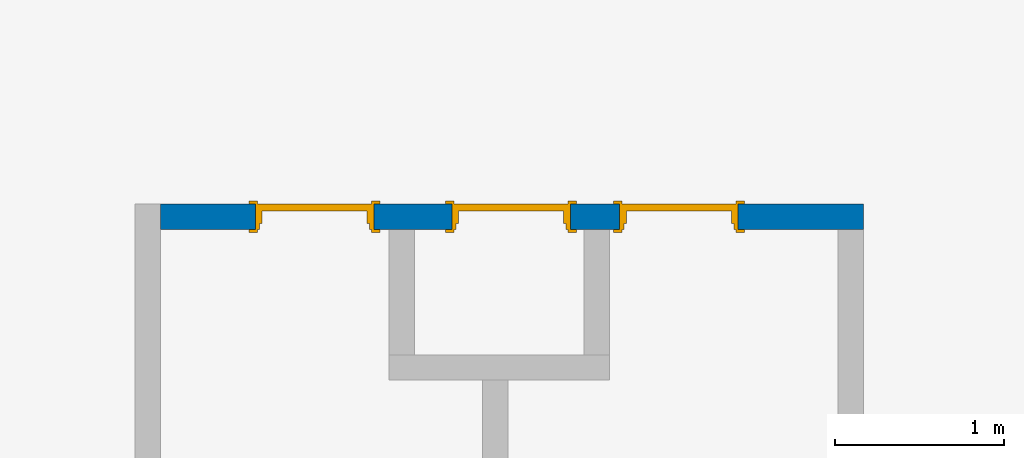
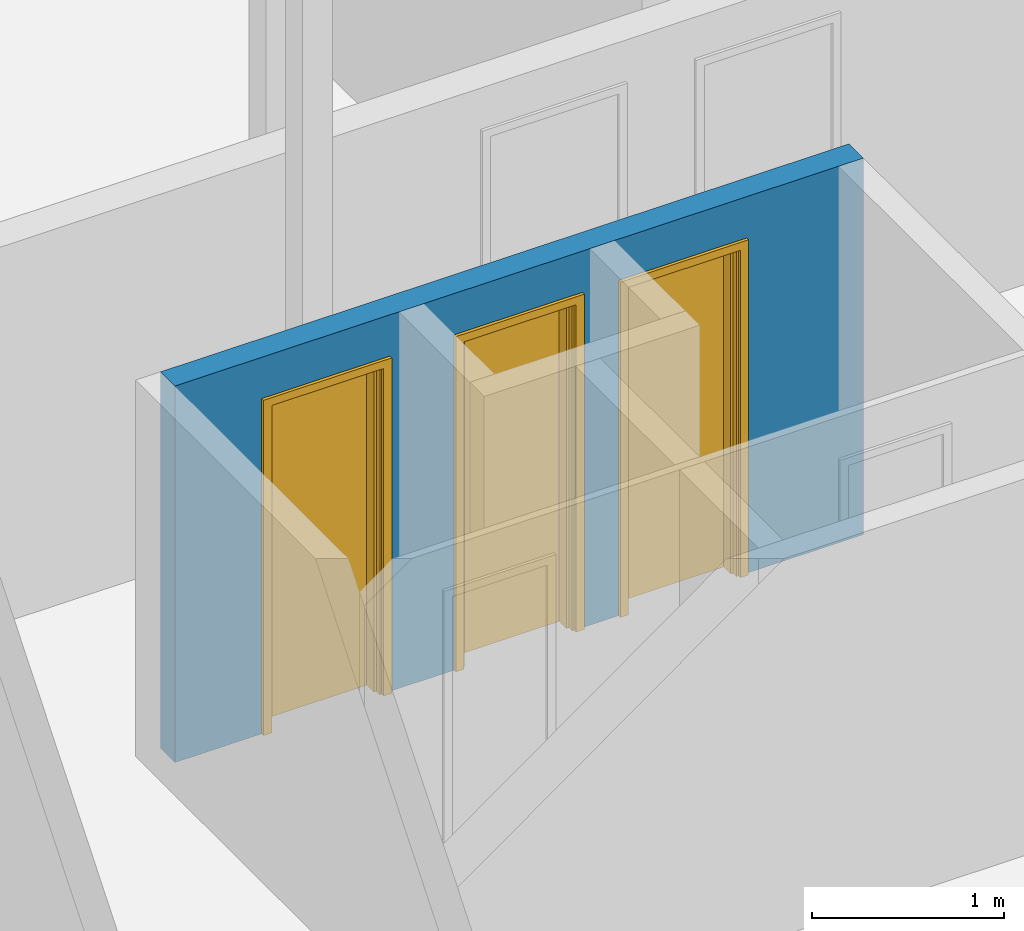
# One storey, part 19 of 48: 3 doors, 1 wall, 3 openings.
"""IFC2X3 building model written with IfcOpenShell, lengths in millimetres."""

from ifc_helpers import new_model, entity, si_unit, converted_unit, derived_unit, money_unit, direction, frame, origin_with_axes, place, context, subcontext, project, spatial, faceted_brep, source, transform, mapped, material, type_object, element, fill, save


model = new_model("IFC2X3")

# Units and contexts
model_context = context("Model", 3, precision=0.01, world=origin_with_axes(), true_north=direction((0.0, 1.0)))
body_context = subcontext(model_context, "Body", "Model", "MODEL_VIEW")
ifc_project = project(units=[si_unit("LENGTHUNIT", "METRE", prefix="MILLI"), si_unit("AREAUNIT", "SQUARE_METRE"), si_unit("VOLUMEUNIT", "CUBIC_METRE"), converted_unit("PLANEANGLEUNIT", "DEGREE", entity("IfcPlaneAngleMeasure", 0.0174532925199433), si_unit("PLANEANGLEUNIT", "RADIAN"), dimensions=[0, 0, 0, 0, 0, 0, 0]), money_unit("USD"), converted_unit("TIMEUNIT", "Year", entity("IfcTimeMeasure", 31557600.0), si_unit("TIMEUNIT", "SECOND"), dimensions=[0, 0, 1, 0, 0, 0, 0]), si_unit("MASSUNIT", "GRAM", prefix="KILO"), si_unit("THERMODYNAMICTEMPERATUREUNIT", "DEGREE_CELSIUS"), si_unit("LUMINOUSINTENSITYUNIT", "LUMEN"), si_unit("ENERGYUNIT", "JOULE", prefix="MEGA"), derived_unit("THERMALCONDUCTANCEUNIT", [(si_unit("POWERUNIT", "WATT"), 1), (si_unit("LENGTHUNIT", "METRE"), -1), (si_unit("THERMODYNAMICTEMPERATUREUNIT", "KELVIN"), -1)]), derived_unit("SPECIFICHEATCAPACITYUNIT", [(si_unit("ENERGYUNIT", "JOULE"), 1), (si_unit("MASSUNIT", "GRAM", prefix="KILO"), -1), (si_unit("THERMODYNAMICTEMPERATUREUNIT", "KELVIN"), -1)]), derived_unit("MASSDENSITYUNIT", [(si_unit("MASSUNIT", "GRAM", prefix="KILO"), 1), (si_unit("VOLUMEUNIT", "CUBIC_METRE"), -1)])], contexts=[model_context])

# Site, building, storey
site_placement = place(None, origin_with_axes())
site = spatial("IfcSite", under=ifc_project, at=site_placement, Name="Site", CompositionType="ELEMENT")
building_placement = place(site_placement, origin_with_axes())
building = spatial("IfcBuilding", under=site, at=building_placement, Name="Building", CompositionType="ELEMENT")
storey_placement = place(building_placement, frame((0.0, 0.0, 3300.0), z_axis=(0.0, 0.0, 1.0), x_axis=(1.0, 0.0, 0.0)))
storey = spatial("IfcBuildingStorey", under=building, at=storey_placement, Name="1 ETG", CompositionType="ELEMENT", Elevation=3300.0)

# Wall, openings, doors
ifc_material = material(Name="GENERIC - INTERNAL FILLER")
wall_type = type_object("IfcWallType", Name="GENERIC - INTERNAL FILLER 150", PredefinedType="NOTDEFINED")
wall_placement = place(storey_placement, frame((34199.99999999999, 12999.87497638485, 0.0), z_axis=(0.0, 0.0, 1.0), x_axis=(1.0, 0.0, 0.0)))
wall = element("IfcWall", 1, at=wall_placement, inside=storey, type_object=wall_type, material=ifc_material, Name="SW - 001", context=body_context, shape_type="Brep", body=[
    faceted_brep([(2860.310245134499, 0.0, 2100.0), (2860.310245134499, 0.0, 0.0), (2569.286744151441, 0.0, 0.0), (2569.286744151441, 0.0, 2100.0), (1869.286744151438, 0.0, 2100.0), (1869.286744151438, 0.0, 0.0), (1409.578391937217, 0.0, 0.0), (1409.578391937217, 0.0, 2100.0), (709.5783919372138, 0.0, 2100.0), (709.5783919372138, 0.0, 0.0), (149.9999999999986, 0.0, 0.0), (149.9999999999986, 0.0, 2400.0), (4299.999999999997, 0.0, 2400.0), (4299.999999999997, 0.0, 0.0), (3560.310245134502, 0.0, 0.0), (3560.310245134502, 0.0, 2100.0), (2860.310245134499, -150.0000000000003, 2100.0), (2860.310245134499, -150.0000000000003, 0.0), (2569.286744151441, -150.0000000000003, 0.0), (2569.286744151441, -150.0000000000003, 2100.0), (1869.286744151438, -150.0000000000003, 2100.0), (1869.286744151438, -150.0000000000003, 0.0), (1409.578391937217, -150.0000000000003, 0.0), (1409.578391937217, -150.0000000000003, 2100.0), (709.5783919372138, -150.0000000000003, 2100.0), (709.5783919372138, -150.0000000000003, 0.0), (149.9999999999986, -150.0000000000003, 0.0), (149.9999999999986, -150.0000000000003, 2400.0), (4299.999999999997, -150.0000000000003, 2400.0), (4299.999999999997, -150.0000000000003, 0.0), (3560.310245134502, -150.0000000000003, 0.0), (3560.310245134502, -150.0000000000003, 2100.0)], [[[0, 1, 2, 3, 4, 5, 6, 7, 8, 9, 10, 11, 12, 13, 14, 15]], [[1, 0, 16, 17]], [[1, 17, 18, 2]], [[2, 18, 19, 3]], [[3, 19, 20, 4]], [[4, 20, 21, 5]], [[21, 22, 6, 5]], [[22, 23, 7, 6]], [[23, 24, 8, 7]], [[24, 25, 9, 8]], [[26, 10, 9, 25]], [[10, 26, 27, 11]], [[27, 28, 12, 11]], [[13, 12, 28, 29]], [[30, 14, 13, 29]], [[15, 14, 30, 31]], [[0, 15, 31, 16]], [[31, 30, 29, 28, 27, 26, 25, 24, 23, 22, 21, 20, 19, 18, 17, 16]]]),
])
opening_1_placement = place(wall_placement, frame((1059.578391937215, 0.0, 0.0), z_axis=(0.0, 0.0, 1.0), x_axis=(1.0, 0.0, 0.0)))
opening_1 = element("IfcOpeningElement", 2, at=opening_1_placement, cuts=wall, Name="DOO - 002", context=body_context, shape_type="Brep", body=[
    faceted_brep([(-350.0000000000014, 0.9999999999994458, 2100.0), (350.0000000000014, 0.9999999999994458, 2100.0), (350.0000000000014, 0.9999999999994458, 0.0), (-350.0000000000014, 0.9999999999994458, 0.0), (-387.0000000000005, 0.9999999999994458, 0.0), (-387.0000000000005, 0.9999999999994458, 2137.0), (387.0000000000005, 0.9999999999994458, 2137.0), (387.0000000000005, 0.9999999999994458, 0.0), (-350.0000000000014, 0.0, 0.0), (350.0000000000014, 0.0, 0.0), (350.0000000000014, -150.0000000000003, 0.0), (350.0000000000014, -150.9999999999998, 0.0), (-350.0000000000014, -150.9999999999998, 0.0), (-350.0000000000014, -150.0000000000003, 0.0), (-387.0000000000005, 0.0, 0.0), (-387.0000000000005, 0.0, 2137.0), (387.0000000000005, 0.0, 2137.0), (387.0000000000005, 0.0, 0.0), (350.0000000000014, 0.0, 2100.0), (350.0000000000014, -150.0000000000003, 2100.0), (387.0000000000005, -150.0000000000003, 0.0), (387.0000000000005, -150.9999999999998, 0.0), (387.0000000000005, -150.9999999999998, 2137.0), (-387.0000000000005, -150.9999999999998, 2137.0), (-387.0000000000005, -150.9999999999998, 0.0), (-387.0000000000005, -150.0000000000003, 0.0), (-350.0000000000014, 0.0, 2100.0), (-350.0000000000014, -150.0000000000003, 2100.0), (-387.0000000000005, -150.0000000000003, 2137.0), (387.0000000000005, -150.0000000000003, 2137.0)], [[[0, 1, 2, 3]], [[2, 1, 0, 3, 4, 5, 6, 7]], [[8, 3, 2, 9, 10, 11, 12, 13]], [[3, 8, 14, 4]], [[14, 15, 5, 4]], [[15, 16, 6, 5]], [[16, 17, 7, 6]], [[9, 2, 7, 17]], [[9, 18, 19, 10]], [[11, 10, 20, 21]], [[12, 11, 21, 22, 23, 24]], [[13, 12, 24, 25]], [[26, 8, 13, 27]], [[26, 18, 9, 17, 16, 15, 14, 8]], [[18, 26, 27, 19]], [[10, 19, 27, 13, 25, 28, 29, 20]], [[20, 29, 22, 21]], [[29, 28, 23, 22]], [[28, 25, 24, 23]]]),
])
opening_2_placement = place(wall_placement, frame((2219.28674415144, 0.0, 0.0), z_axis=(0.0, 0.0, 1.0), x_axis=(1.0, 0.0, 0.0)))
opening_2 = element("IfcOpeningElement", 3, at=opening_2_placement, cuts=wall, Name="DOO - 002", context=body_context, shape_type="Brep", body=[
    faceted_brep([(-350.0000000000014, 0.9999999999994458, 2100.0), (350.0000000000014, 0.9999999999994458, 2100.0), (350.0000000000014, 0.9999999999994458, 0.0), (-350.0000000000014, 0.9999999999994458, 0.0), (-387.0000000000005, 0.9999999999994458, 0.0), (-387.0000000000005, 0.9999999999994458, 2137.0), (387.0000000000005, 0.9999999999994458, 2137.0), (387.0000000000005, 0.9999999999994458, 0.0), (-350.0000000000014, 0.0, 0.0), (350.0000000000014, 0.0, 0.0), (350.0000000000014, -150.0000000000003, 0.0), (350.0000000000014, -150.9999999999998, 0.0), (-350.0000000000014, -150.9999999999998, 0.0), (-350.0000000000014, -150.0000000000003, 0.0), (-387.0000000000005, 0.0, 0.0), (-387.0000000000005, 0.0, 2137.0), (387.0000000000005, 0.0, 2137.0), (387.0000000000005, 0.0, 0.0), (350.0000000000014, 0.0, 2100.0), (350.0000000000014, -150.0000000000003, 2100.0), (387.0000000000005, -150.0000000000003, 0.0), (387.0000000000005, -150.9999999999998, 0.0), (387.0000000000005, -150.9999999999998, 2137.0), (-387.0000000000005, -150.9999999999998, 2137.0), (-387.0000000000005, -150.9999999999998, 0.0), (-387.0000000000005, -150.0000000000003, 0.0), (-350.0000000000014, 0.0, 2100.0), (-350.0000000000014, -150.0000000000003, 2100.0), (-387.0000000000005, -150.0000000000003, 2137.0), (387.0000000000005, -150.0000000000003, 2137.0)], [[[0, 1, 2, 3]], [[2, 1, 0, 3, 4, 5, 6, 7]], [[8, 3, 2, 9, 10, 11, 12, 13]], [[3, 8, 14, 4]], [[14, 15, 5, 4]], [[15, 16, 6, 5]], [[16, 17, 7, 6]], [[9, 2, 7, 17]], [[9, 18, 19, 10]], [[11, 10, 20, 21]], [[12, 11, 21, 22, 23, 24]], [[13, 12, 24, 25]], [[26, 8, 13, 27]], [[26, 18, 9, 17, 16, 15, 14, 8]], [[18, 26, 27, 19]], [[10, 19, 27, 13, 25, 28, 29, 20]], [[20, 29, 22, 21]], [[29, 28, 23, 22]], [[28, 25, 24, 23]]]),
])
opening_3_placement = place(wall_placement, frame((3210.310245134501, 0.0, 0.0), z_axis=(0.0, 0.0, 1.0), x_axis=(1.0, 0.0, 0.0)))
opening_3 = element("IfcOpeningElement", 4, at=opening_3_placement, cuts=wall, Name="DOO - 002", context=body_context, shape_type="Brep", body=[
    faceted_brep([(-350.0000000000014, 0.9999999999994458, 2100.0), (350.0000000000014, 0.9999999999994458, 2100.0), (350.0000000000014, 0.9999999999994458, 0.0), (-350.0000000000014, 0.9999999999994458, 0.0), (-387.0000000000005, 0.9999999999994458, 0.0), (-387.0000000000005, 0.9999999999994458, 2137.0), (387.0000000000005, 0.9999999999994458, 2137.0), (387.0000000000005, 0.9999999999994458, 0.0), (-350.0000000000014, 0.0, 0.0), (350.0000000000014, 0.0, 0.0), (350.0000000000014, -150.0000000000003, 0.0), (350.0000000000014, -150.9999999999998, 0.0), (-350.0000000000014, -150.9999999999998, 0.0), (-350.0000000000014, -150.0000000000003, 0.0), (-387.0000000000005, 0.0, 0.0), (-387.0000000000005, 0.0, 2137.0), (387.0000000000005, 0.0, 2137.0), (387.0000000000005, 0.0, 0.0), (350.0000000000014, 0.0, 2100.0), (350.0000000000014, -150.0000000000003, 2100.0), (387.0000000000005, -150.0000000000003, 0.0), (387.0000000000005, -150.9999999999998, 0.0), (387.0000000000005, -150.9999999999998, 2137.0), (-387.0000000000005, -150.9999999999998, 2137.0), (-387.0000000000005, -150.9999999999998, 0.0), (-387.0000000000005, -150.0000000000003, 0.0), (-350.0000000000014, 0.0, 2100.0), (-350.0000000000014, -150.0000000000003, 2100.0), (-387.0000000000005, -150.0000000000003, 2137.0), (387.0000000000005, -150.0000000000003, 2137.0)], [[[0, 1, 2, 3]], [[2, 1, 0, 3, 4, 5, 6, 7]], [[8, 3, 2, 9, 10, 11, 12, 13]], [[3, 8, 14, 4]], [[14, 15, 5, 4]], [[15, 16, 6, 5]], [[16, 17, 7, 6]], [[9, 2, 7, 17]], [[9, 18, 19, 10]], [[11, 10, 20, 21]], [[12, 11, 21, 22, 23, 24]], [[13, 12, 24, 25]], [[26, 8, 13, 27]], [[26, 18, 9, 17, 16, 15, 14, 8]], [[18, 26, 27, 19]], [[10, 19, 27, 13, 25, 28, 29, 20]], [[20, 29, 22, 21]], [[29, 28, 23, 22]], [[28, 25, 24, 23]]]),
])
door_style_1 = type_object("IfcDoorStyle", Name="Dør", ConstructionType="NOTDEFINED", OperationType="SINGLE_SWING_LEFT", ParameterTakesPrecedence=False, Sizeable=False)
shared_shape_1 = source(origin_with_axes(), body_context, "Body", "Brep", [
    faceted_brep([(350.0, -115.0, 0.0), (350.0, -150.0, 0.0), (324.9999999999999, -150.0, 0.0), (324.9999999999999, -115.0, 0.0), (350.0, -115.0000000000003, 2100.0), (350.0, -150.0000000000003, 2100.0), (324.9999999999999, -150.0000000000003, 2075.0), (324.9999999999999, -115.0000000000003, 2075.0)], [[[0, 1, 2, 3]], [[4, 5, 1, 0]], [[1, 5, 6, 2]], [[3, 2, 6, 7]], [[0, 3, 7, 4]], [[7, 6, 5, 4]]]),
    faceted_brep([(-350.0, -115.0000000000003, 2100.0), (-350.0, -150.0000000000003, 2100.0), (-324.9999999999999, -150.0000000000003, 2075.0), (-324.9999999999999, -115.0000000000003, 2075.0), (-350.0, -115.0, 0.0), (-350.0, -150.0, 0.0), (-324.9999999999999, -150.0, 0.0), (-324.9999999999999, -115.0, 0.0)], [[[0, 1, 2, 3]], [[4, 5, 1, 0]], [[1, 5, 6, 2]], [[3, 2, 6, 7]], [[0, 3, 7, 4]], [[7, 6, 5, 4]]]),
    faceted_brep([(324.9999999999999, -115.0000000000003, 2075.0), (324.9999999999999, -150.0000000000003, 2075.0), (-324.9999999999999, -150.0000000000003, 2075.0), (-324.9999999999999, -115.0000000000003, 2075.0), (350.0, -115.0000000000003, 2100.0), (350.0, -150.0000000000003, 2100.0), (-350.0, -150.0000000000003, 2100.0), (-350.0, -115.0000000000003, 2100.0)], [[[0, 1, 2, 3]], [[4, 5, 1, 0]], [[1, 5, 6, 2]], [[3, 2, 6, 7]], [[0, 3, 7, 4]], [[7, 6, 5, 4]]]),
    faceted_brep([(386.9999999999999, -169.0, 0.0), (336.9999999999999, -169.0, 0.0), (336.9999999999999, -150.0, 0.0), (386.9999999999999, -150.0, 0.0), (386.9999999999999, -169.0000000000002, 2137.0), (336.9999999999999, -169.0000000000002, 2087.0), (336.9999999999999, -150.0000000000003, 2087.0), (386.9999999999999, -150.0000000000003, 2137.0)], [[[0, 1, 2, 3]], [[0, 4, 5, 1]], [[1, 5, 6, 2]], [[3, 2, 6, 7]], [[4, 0, 3, 7]], [[5, 4, 7, 6]]]),
    faceted_brep([(-386.9999999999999, -169.0000000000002, 2137.0), (-336.9999999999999, -169.0000000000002, 2087.0), (-336.9999999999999, -150.0000000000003, 2087.0), (-386.9999999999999, -150.0000000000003, 2137.0), (-386.9999999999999, -169.0, 0.0), (-336.9999999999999, -169.0, 0.0), (-336.9999999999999, -150.0, 0.0), (-386.9999999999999, -150.0, 0.0)], [[[0, 1, 2, 3]], [[0, 4, 5, 1]], [[1, 5, 6, 2]], [[3, 2, 6, 7]], [[4, 0, 3, 7]], [[5, 4, 7, 6]]]),
    faceted_brep([(386.9999999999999, -169.0000000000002, 2137.0), (336.9999999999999, -169.0000000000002, 2087.0), (336.9999999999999, -150.0000000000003, 2087.0), (386.9999999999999, -150.0000000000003, 2137.0), (-386.9999999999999, -169.0000000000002, 2137.0), (-336.9999999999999, -169.0000000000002, 2087.0), (-336.9999999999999, -150.0000000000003, 2087.0), (-386.9999999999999, -150.0000000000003, 2137.0)], [[[0, 1, 2, 3]], [[0, 4, 5, 1]], [[1, 5, 6, 2]], [[3, 2, 6, 7]], [[4, 0, 3, 7]], [[5, 4, 7, 6]]]),
    faceted_brep([(386.9999999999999, 19.0, 0.0), (386.9999999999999, 0.0, 0.0), (336.9999999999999, 0.0, 0.0), (336.9999999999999, 19.0, 0.0), (386.9999999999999, 18.99999999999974, 2137.0), (386.9999999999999, 0.0, 2137.0), (336.9999999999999, 0.0, 2087.0), (336.9999999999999, 18.99999999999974, 2087.0)], [[[0, 1, 2, 3]], [[4, 5, 1, 0]], [[1, 5, 6, 2]], [[3, 2, 6, 7]], [[0, 3, 7, 4]], [[7, 6, 5, 4]]]),
    faceted_brep([(-386.9999999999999, 18.99999999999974, 2137.0), (-386.9999999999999, 0.0, 2137.0), (-336.9999999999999, 0.0, 2087.0), (-336.9999999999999, 18.99999999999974, 2087.0), (-386.9999999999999, 19.0, 0.0), (-386.9999999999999, 0.0, 0.0), (-336.9999999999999, 0.0, 0.0), (-336.9999999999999, 19.0, 0.0)], [[[0, 1, 2, 3]], [[4, 5, 1, 0]], [[1, 5, 6, 2]], [[3, 2, 6, 7]], [[0, 3, 7, 4]], [[7, 6, 5, 4]]]),
    faceted_brep([(387.0, 18.99999999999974, 2137.0), (387.0, 0.0, 2137.0), (336.9999999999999, 0.0, 2087.0), (336.9999999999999, 18.99999999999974, 2087.0), (-387.0, 18.99999999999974, 2137.0), (-387.0, 0.0, 2137.0), (-336.9999999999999, 0.0, 2087.0), (-336.9999999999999, 18.99999999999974, 2087.0)], [[[0, 1, 2, 3]], [[4, 5, 1, 0]], [[1, 5, 6, 2]], [[3, 2, 6, 7]], [[0, 3, 7, 4]], [[7, 6, 5, 4]]]),
    faceted_brep([(350.0, 0.0, 0.0), (350.0, -115.0, 0.0), (310.0, -115.0, 0.0), (310.0, 0.0, 0.0), (350.0, 0.0, 2060.0), (350.0, -115.0, 2060.0), (310.0, -115.0, 2060.0), (310.0, 0.0, 2060.0)], [[[0, 1, 2, 3]], [[4, 5, 1, 0]], [[1, 5, 6, 2]], [[3, 2, 6, 7]], [[0, 3, 7, 4]], [[7, 6, 5, 4]]]),
    faceted_brep([(-350.0, 0.0, 0.0), (-350.0, -115.0, 0.0), (-350.0, -115.0, 2060.0), (-350.0, 0.0, 2060.0), (-310.0, 0.0, 0.0), (-310.0, -115.0, 0.0), (-310.0, -115.0, 2060.0), (-310.0, 0.0, 2060.0)], [[[0, 1, 2, 3]], [[4, 5, 1, 0]], [[1, 5, 6, 2]], [[3, 2, 6, 7]], [[0, 3, 7, 4]], [[7, 6, 5, 4]]]),
    faceted_brep([(350.0, 0.0, 2100.0), (350.0, -115.0, 2100.0), (350.0, -115.0, 2060.0), (350.0, 0.0, 2060.0), (-350.0, 0.0, 2100.0), (-350.0, -115.0, 2100.0), (-350.0, -115.0, 2060.0), (-310.0, -115.0, 2060.0), (310.0, -115.0, 2060.0), (310.0, 0.0, 2060.0), (-310.0, 0.0, 2060.0), (-350.0, 0.0, 2060.0)], [[[0, 1, 2, 3]], [[4, 5, 1, 0]], [[1, 5, 6, 7, 8, 2]], [[3, 2, 8, 9]], [[0, 3, 9, 10, 11, 4]], [[11, 6, 5, 4]], [[10, 7, 6, 11]], [[9, 8, 7, 10]]]),
    faceted_brep([(-309.9999999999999, 0.0, 0.0), (310.0, 0.0, 0.0), (310.0, -40.0, 0.0), (-309.9999999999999, -40.0, 0.0), (-309.9999999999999, 0.0, 2060.0), (310.0, 0.0, 2060.0), (310.0, -40.00000000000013, 2060.0), (-309.9999999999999, -40.00000000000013, 2060.0)], [[[0, 1, 2, 3]], [[0, 4, 5, 1]], [[1, 5, 6, 2]], [[3, 2, 6, 7]], [[4, 0, 3, 7]], [[5, 4, 7, 6]]]),
])
door_1_placement = place(opening_1_placement, frame((-350.0000000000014, 0.0, 0.0), z_axis=(0.0, 0.0, 1.0), x_axis=(1.0, 0.0, 0.0)))
door_1 = element("IfcDoor", 5, at=door_1_placement, inside=storey, type_object=door_style_1, Name="DOO - 002", ObjectType="DOOR", OverallHeight=2100.0, OverallWidth=700.0, context=body_context, shape_type="MappedRepresentation", body=[
    mapped(shared_shape_1, transform((350.0000000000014, 0.0, 0.0))),
])
fill(opening_1, door_1)
door_style_2 = type_object("IfcDoorStyle", Name="Dør", ConstructionType="NOTDEFINED", OperationType="SINGLE_SWING_RIGHT", ParameterTakesPrecedence=False, Sizeable=False)
shared_shape_2 = source(origin_with_axes(), body_context, "Body", "Brep", [
    faceted_brep([(-350.0, -115.0, 0.0), (-324.9999999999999, -115.0, 0.0), (-324.9999999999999, -150.0, 0.0), (-350.0, -150.0, 0.0), (-350.0, -115.0000000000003, 2100.0), (-324.9999999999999, -115.0000000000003, 2075.0), (-324.9999999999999, -150.0000000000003, 2075.0), (-350.0, -150.0000000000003, 2100.0)], [[[0, 1, 2, 3]], [[0, 4, 5, 1]], [[1, 5, 6, 2]], [[3, 2, 6, 7]], [[4, 0, 3, 7]], [[5, 4, 7, 6]]]),
    faceted_brep([(350.0, -115.0000000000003, 2100.0), (324.9999999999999, -115.0000000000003, 2075.0), (324.9999999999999, -150.0000000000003, 2075.0), (350.0, -150.0000000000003, 2100.0), (350.0, -115.0, 0.0), (324.9999999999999, -115.0, 0.0), (324.9999999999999, -150.0, 0.0), (350.0, -150.0, 0.0)], [[[0, 1, 2, 3]], [[0, 4, 5, 1]], [[1, 5, 6, 2]], [[3, 2, 6, 7]], [[4, 0, 3, 7]], [[5, 4, 7, 6]]]),
    faceted_brep([(-324.9999999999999, -115.0000000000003, 2075.0), (324.9999999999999, -115.0000000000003, 2075.0), (324.9999999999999, -150.0000000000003, 2075.0), (-324.9999999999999, -150.0000000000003, 2075.0), (-350.0, -115.0000000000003, 2100.0), (350.0, -115.0000000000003, 2100.0), (350.0, -150.0000000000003, 2100.0), (-350.0, -150.0000000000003, 2100.0)], [[[0, 1, 2, 3]], [[0, 4, 5, 1]], [[1, 5, 6, 2]], [[3, 2, 6, 7]], [[4, 0, 3, 7]], [[5, 4, 7, 6]]]),
    faceted_brep([(-386.9999999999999, -169.0, 0.0), (-386.9999999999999, -150.0, 0.0), (-336.9999999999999, -150.0, 0.0), (-336.9999999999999, -169.0, 0.0), (-386.9999999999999, -169.0000000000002, 2137.0), (-386.9999999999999, -150.0000000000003, 2137.0), (-336.9999999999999, -150.0000000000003, 2087.0), (-336.9999999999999, -169.0000000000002, 2087.0)], [[[0, 1, 2, 3]], [[4, 5, 1, 0]], [[1, 5, 6, 2]], [[3, 2, 6, 7]], [[0, 3, 7, 4]], [[7, 6, 5, 4]]]),
    faceted_brep([(386.9999999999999, -169.0000000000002, 2137.0), (386.9999999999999, -150.0000000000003, 2137.0), (336.9999999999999, -150.0000000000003, 2087.0), (336.9999999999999, -169.0000000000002, 2087.0), (386.9999999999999, -169.0, 0.0), (386.9999999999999, -150.0, 0.0), (336.9999999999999, -150.0, 0.0), (336.9999999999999, -169.0, 0.0)], [[[0, 1, 2, 3]], [[4, 5, 1, 0]], [[1, 5, 6, 2]], [[3, 2, 6, 7]], [[0, 3, 7, 4]], [[7, 6, 5, 4]]]),
    faceted_brep([(-386.9999999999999, -169.0000000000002, 2137.0), (-386.9999999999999, -150.0000000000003, 2137.0), (-336.9999999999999, -150.0000000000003, 2087.0), (-336.9999999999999, -169.0000000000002, 2087.0), (386.9999999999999, -169.0000000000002, 2137.0), (386.9999999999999, -150.0000000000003, 2137.0), (336.9999999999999, -150.0000000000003, 2087.0), (336.9999999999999, -169.0000000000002, 2087.0)], [[[0, 1, 2, 3]], [[4, 5, 1, 0]], [[1, 5, 6, 2]], [[3, 2, 6, 7]], [[0, 3, 7, 4]], [[7, 6, 5, 4]]]),
    faceted_brep([(-386.9999999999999, 19.0, 0.0), (-336.9999999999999, 19.0, 0.0), (-336.9999999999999, 0.0, 0.0), (-386.9999999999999, 0.0, 0.0), (-386.9999999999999, 18.99999999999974, 2137.0), (-336.9999999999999, 18.99999999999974, 2087.0), (-336.9999999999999, 0.0, 2087.0), (-386.9999999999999, 0.0, 2137.0)], [[[0, 1, 2, 3]], [[0, 4, 5, 1]], [[1, 5, 6, 2]], [[3, 2, 6, 7]], [[4, 0, 3, 7]], [[5, 4, 7, 6]]]),
    faceted_brep([(386.9999999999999, 18.99999999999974, 2137.0), (336.9999999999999, 18.99999999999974, 2087.0), (336.9999999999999, 0.0, 2087.0), (386.9999999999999, 0.0, 2137.0), (386.9999999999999, 19.0, 0.0), (336.9999999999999, 19.0, 0.0), (336.9999999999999, 0.0, 0.0), (386.9999999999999, 0.0, 0.0)], [[[0, 1, 2, 3]], [[0, 4, 5, 1]], [[1, 5, 6, 2]], [[3, 2, 6, 7]], [[4, 0, 3, 7]], [[5, 4, 7, 6]]]),
    faceted_brep([(-387.0, 18.99999999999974, 2137.0), (-336.9999999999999, 18.99999999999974, 2087.0), (-336.9999999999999, 0.0, 2087.0), (-387.0, 0.0, 2137.0), (387.0, 18.99999999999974, 2137.0), (336.9999999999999, 18.99999999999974, 2087.0), (336.9999999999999, 0.0, 2087.0), (387.0, 0.0, 2137.0)], [[[0, 1, 2, 3]], [[0, 4, 5, 1]], [[1, 5, 6, 2]], [[3, 2, 6, 7]], [[4, 0, 3, 7]], [[5, 4, 7, 6]]]),
    faceted_brep([(-350.0, 0.0, 0.0), (-310.0, 0.0, 0.0), (-310.0, -115.0, 0.0), (-350.0, -115.0, 0.0), (-350.0, 0.0, 2060.0), (-310.0, 0.0, 2060.0), (-310.0, -115.0, 2060.0), (-350.0, -115.0, 2060.0)], [[[0, 1, 2, 3]], [[0, 4, 5, 1]], [[1, 5, 6, 2]], [[3, 2, 6, 7]], [[4, 0, 3, 7]], [[5, 4, 7, 6]]]),
    faceted_brep([(350.0, 0.0, 0.0), (350.0, 0.0, 2060.0), (350.0, -115.0, 2060.0), (350.0, -115.0, 0.0), (310.0, 0.0, 0.0), (310.0, 0.0, 2060.0), (310.0, -115.0, 2060.0), (310.0, -115.0, 0.0)], [[[0, 1, 2, 3]], [[0, 4, 5, 1]], [[1, 5, 6, 2]], [[3, 2, 6, 7]], [[4, 0, 3, 7]], [[5, 4, 7, 6]]]),
    faceted_brep([(-350.0, 0.0, 2100.0), (-350.0, 0.0, 2060.0), (-350.0, -115.0, 2060.0), (-350.0, -115.0, 2100.0), (350.0, 0.0, 2100.0), (350.0, 0.0, 2060.0), (310.0, 0.0, 2060.0), (-310.0, 0.0, 2060.0), (-310.0, -115.0, 2060.0), (310.0, -115.0, 2060.0), (350.0, -115.0, 2060.0), (350.0, -115.0, 2100.0)], [[[0, 1, 2, 3]], [[0, 4, 5, 6, 7, 1]], [[1, 7, 8, 2]], [[3, 2, 8, 9, 10, 11]], [[4, 0, 3, 11]], [[5, 4, 11, 10]], [[6, 5, 10, 9]], [[7, 6, 9, 8]]]),
    faceted_brep([(309.9999999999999, 0.0, 0.0), (309.9999999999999, -40.0, 0.0), (-310.0, -40.0, 0.0), (-310.0, 0.0, 0.0), (309.9999999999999, 0.0, 2060.0), (309.9999999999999, -40.00000000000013, 2060.0), (-310.0, -40.00000000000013, 2060.0), (-310.0, 0.0, 2060.0)], [[[0, 1, 2, 3]], [[4, 5, 1, 0]], [[1, 5, 6, 2]], [[3, 2, 6, 7]], [[0, 3, 7, 4]], [[7, 6, 5, 4]]]),
])
door_2_placement = place(opening_2_placement, frame((-350.0000000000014, 0.0, 0.0), z_axis=(0.0, 0.0, 1.0), x_axis=(1.0, 0.0, 0.0)))
door_2 = element("IfcDoor", 6, at=door_2_placement, inside=storey, type_object=door_style_2, Name="DOO - 002", ObjectType="DOOR", OverallHeight=2100.0, OverallWidth=700.0, context=body_context, shape_type="MappedRepresentation", body=[
    mapped(shared_shape_2, transform((350.0000000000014, 0.0, 0.0))),
])
fill(opening_2, door_2)
door_3_placement = place(opening_3_placement, frame((-350.0000000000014, 0.0, 0.0), z_axis=(0.0, 0.0, 1.0), x_axis=(1.0, 0.0, 0.0)))
door_3 = element("IfcDoor", 7, at=door_3_placement, inside=storey, type_object=door_style_2, Name="DOO - 002", ObjectType="DOOR", OverallHeight=2100.0, OverallWidth=700.0, context=body_context, shape_type="MappedRepresentation", body=[
    mapped(shared_shape_2, transform((350.0000000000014, 0.0, 0.0))),
])
fill(opening_3, door_3)

save(model, "model.ifc")
